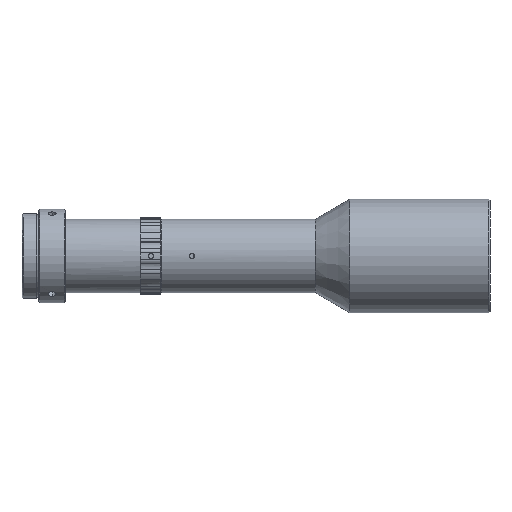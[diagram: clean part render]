
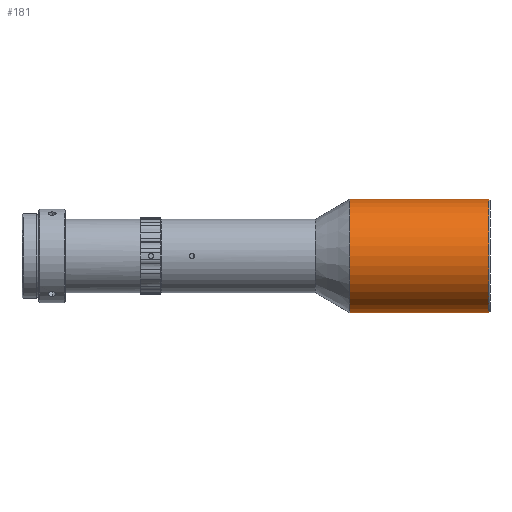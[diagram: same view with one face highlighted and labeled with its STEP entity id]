
A CAD part, front view. The second image highlights one B-rep face of the part: STEP entity #181.
In plain terms, the highlighted cylindrical face has radius 17 mm (diameter 34 mm), a partial arc.
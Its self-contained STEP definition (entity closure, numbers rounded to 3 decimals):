
#181 = ADVANCED_FACE ( 'NONE', ( #5953 ), #1808, .T. ) ;
#337 = DIRECTION ( 'NONE',  ( -1., 0., 0. ) ) ;
#379 = ORIENTED_EDGE ( 'NONE', *, *, #2695, .F. ) ;
#468 = CARTESIAN_POINT ( 'NONE',  ( 70.73, 0., 17. ) ) ;
#751 = EDGE_CURVE ( 'NONE', #1807, #4278, #3307, .T. ) ;
#1268 = VERTEX_POINT ( 'NONE', #468 ) ;
#1408 = ORIENTED_EDGE ( 'NONE', *, *, #751, .T. ) ;
#1637 = CARTESIAN_POINT ( 'NONE',  ( 70.73, 0., -17. ) ) ;
#1807 = VERTEX_POINT ( 'NONE', #4252 ) ;
#1808 = CYLINDRICAL_SURFACE ( 'NONE', #3615, 17. ) ;
#1832 = VECTOR ( 'NONE', #1980, 1000. ) ;
#1931 = CARTESIAN_POINT ( 'NONE',  ( 29.03, 0., -17. ) ) ;
#1980 = DIRECTION ( 'NONE',  ( -1., 0., 0. ) ) ;
#2183 = EDGE_LOOP ( 'NONE', ( #2631, #379, #4214, #1408 ) ) ;
#2258 = DIRECTION ( 'NONE',  ( 1., 0., 0. ) ) ;
#2631 = ORIENTED_EDGE ( 'NONE', *, *, #5358, .F. ) ;
#2691 = DIRECTION ( 'NONE',  ( -1., 0., 0. ) ) ;
#2695 = EDGE_CURVE ( 'NONE', #1268, #6094, #5547, .T. ) ;
#3307 = CIRCLE ( 'NONE', #3710, 17. ) ;
#3384 = CARTESIAN_POINT ( 'NONE',  ( 70.73, 0., 17. ) ) ;
#3485 = VECTOR ( 'NONE', #337, 1000. ) ;
#3615 = AXIS2_PLACEMENT_3D ( 'NONE', #4197, #2691, #6065 ) ;
#3710 = AXIS2_PLACEMENT_3D ( 'NONE', #4111, #2258, #4685 ) ;
#3804 = LINE ( 'NONE', #3384, #1832 ) ;
#3938 = CARTESIAN_POINT ( 'NONE',  ( 70.73, 0., 0. ) ) ;
#4111 = CARTESIAN_POINT ( 'NONE',  ( 29.03, 0., 0. ) ) ;
#4197 = CARTESIAN_POINT ( 'NONE',  ( 70.73, 0., 0. ) ) ;
#4214 = ORIENTED_EDGE ( 'NONE', *, *, #5901, .T. ) ;
#4252 = CARTESIAN_POINT ( 'NONE',  ( 29.03, 0., 17. ) ) ;
#4278 = VERTEX_POINT ( 'NONE', #1931 ) ;
#4512 = CARTESIAN_POINT ( 'NONE',  ( 70.73, 0., -17. ) ) ;
#4685 = DIRECTION ( 'NONE',  ( 0., 0., -1. ) ) ;
#4824 = DIRECTION ( 'NONE',  ( 0., 0., 1. ) ) ;
#5295 = DIRECTION ( 'NONE',  ( 1., 0., 0. ) ) ;
#5358 = EDGE_CURVE ( 'NONE', #6094, #4278, #5983, .T. ) ;
#5547 = CIRCLE ( 'NONE', #6041, 17. ) ;
#5901 = EDGE_CURVE ( 'NONE', #1268, #1807, #3804, .T. ) ;
#5953 = FACE_OUTER_BOUND ( 'NONE', #2183, .T. ) ;
#5983 = LINE ( 'NONE', #1637, #3485 ) ;
#6041 = AXIS2_PLACEMENT_3D ( 'NONE', #3938, #5295, #4824 ) ;
#6065 = DIRECTION ( 'NONE',  ( 0., 0., 1. ) ) ;
#6094 = VERTEX_POINT ( 'NONE', #4512 ) ;
